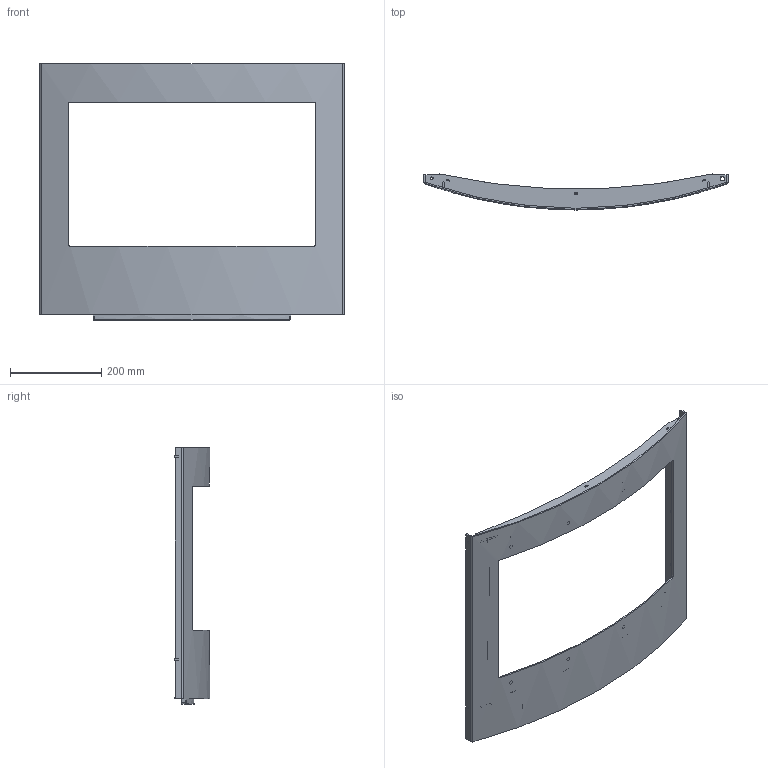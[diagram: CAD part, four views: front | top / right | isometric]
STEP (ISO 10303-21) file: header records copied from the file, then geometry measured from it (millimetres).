
FILE_DESCRIPTION (( 'STEP AP203' ), '1' );
FILE_NAME ('121-33-000 Vrata KOMPLET.STEP', '2021-12-02T06:28:00', ( '' ), ( '' ), 'SwSTEP 2.0', 'SolidWorks 2017', '' );
FILE_SCHEMA (( 'CONFIG_CONTROL_DESIGN' ));
Length unit declared in the file: millimetre
Products named in the file (16): 121-36-001 Traka nosaca donjeg; 121-36-000 Nosac brtve donji KOMPLET; 121-35-001 Nosac brtve horizontalni; 121-34-000 Rebro krace KOMPLET; 121-36-002 Nosac brtve donji; 121-33-003 Rebro vrata srednje; 121-33-001 Vrata; 121-34-002 Z profil kraci; 121-33-000 Vrata KOMPLET; 121-33-004 Rebro vrata donje; 121-35-002 Traka nosaca brtve; 121-33-005 Rebro vrata vertikalno; 121-34-001 Rebro vertikalno krace; 121-33-002 Rero vrata gornje; 121-35-000 Nosac brtve horizontalni KOMPLET; 10000650 Matica za punktiranje fi7,1x10  M5_ Matica za punktiranje fi7,1x10  M5
Assembly tree (25 placements, depth 3):
  121-33-000 Vrata KOMPLET
    121-33-001 Vrata
    121-33-002 Rero vrata gornje
    121-33-003 Rebro vrata srednje
    121-33-004 Rebro vrata donje
    121-33-005 Rebro vrata vertikalno  x2
    10000650 Matica za punktiranje fi7,1x10  M5_ Matica za punktiranje fi7,1x10  M5  x8
    121-34-000 Rebro krace KOMPLET  x2
      121-34-001 Rebro vertikalno krace
      121-34-002 Z profil kraci
    121-35-000 Nosac brtve horizontalni KOMPLET  x2
      121-35-001 Nosac brtve horizontalni
      121-35-002 Traka nosaca brtve
    121-36-000 Nosac brtve donji KOMPLET
      121-36-001 Traka nosaca donjeg
      121-36-002 Nosac brtve donji
Bounding box: 666 x 78.08 x 562 mm (x, y, z)
Volume: 1176874.9 mm3; surface area: 818351.3 mm2
Topology: 24 solids, 24 shells, 611 faces, 1585 edges, 1022 vertices
Faces by surface type: plane 342, cylinder 247, cone 16, bspline 6
Entity records: 14741 total; most frequent: CARTESIAN_POINT 2585, DIRECTION 2173, ORIENTED_EDGE 2098, EDGE_CURVE 1049, AXIS2_PLACEMENT_3D 731, LINE 711, VECTOR 711, VERTEX_POINT 683
